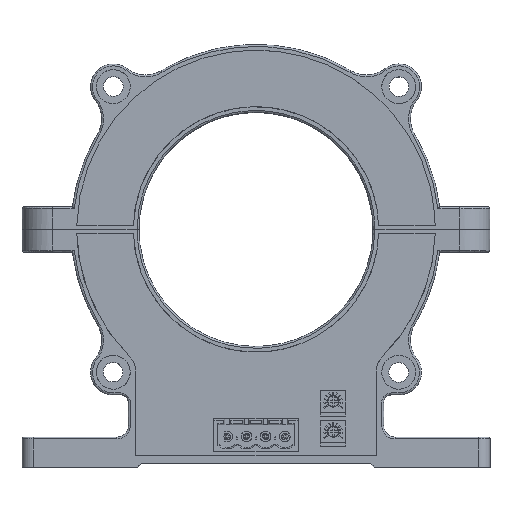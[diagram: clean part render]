
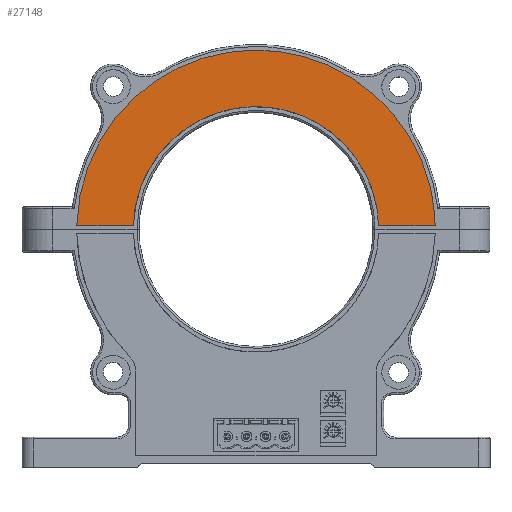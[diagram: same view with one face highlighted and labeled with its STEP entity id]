
A CAD part, top view. The second image highlights one B-rep face of the part: STEP entity #27148.
In plain terms, the highlighted free-form (B-spline) face has degree [1, 1] with [2, 2] control points.
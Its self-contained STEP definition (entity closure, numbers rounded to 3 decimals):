
#21465=CARTESIAN_POINT('',(47.489,1.,20.5));
#21466=VERTEX_POINT('',#21465);
#21472=CARTESIAN_POINT('',(32.485,1.,20.5));
#21473=VERTEX_POINT('',#21472);
#21474=CARTESIAN_POINT('',(47.489,1.,20.5));
#21475=CARTESIAN_POINT('',(32.485,1.,20.5));
#21476=B_SPLINE_CURVE_WITH_KNOTS('',1,(#21474,#21475),.POLYLINE_FORM.,.F.,.U.,(2,2),(0.,1.),.UNSPECIFIED.);
#21477=EDGE_CURVE('',#21466,#21473,#21476,.T.);
#21563=CARTESIAN_POINT('',(-32.485,1.,20.5));
#21564=VERTEX_POINT('',#21563);
#21565=CARTESIAN_POINT('',(32.485,1.,20.5));
#21566=CARTESIAN_POINT('',(31.515,32.5,20.5));
#21567=CARTESIAN_POINT('',(0.,32.5,20.5));
#21568=CARTESIAN_POINT('',(-31.515,32.5,20.5));
#21569=CARTESIAN_POINT('',(-32.485,1.,20.5));
#21570=(BOUNDED_CURVE()B_SPLINE_CURVE(2,(#21565,#21566,#21567,#21568,#21569),.UNSPECIFIED.,.F.,.U.)B_SPLINE_CURVE_WITH_KNOTS((3,2,3),(0.,0.5,1.),.UNSPECIFIED.)CURVE()GEOMETRIC_REPRESENTATION_ITEM()RATIONAL_B_SPLINE_CURVE((1.,0.718,1.,0.718,1.))REPRESENTATION_ITEM(''));
#21571=EDGE_CURVE('',#21473,#21564,#21570,.T.);
#21604=CARTESIAN_POINT('',(-47.489,1.,20.5));
#21605=VERTEX_POINT('',#21604);
#21606=CARTESIAN_POINT('',(-32.485,1.,20.5));
#21607=CARTESIAN_POINT('',(-47.489,1.,20.5));
#21608=B_SPLINE_CURVE_WITH_KNOTS('',1,(#21606,#21607),.POLYLINE_FORM.,.F.,.U.,(2,2),(0.,1.),.UNSPECIFIED.);
#21609=EDGE_CURVE('',#21564,#21605,#21608,.T.);
#22177=CARTESIAN_POINT('',(-47.489,1.,20.5));
#22178=CARTESIAN_POINT('',(-46.51,47.5,20.5));
#22179=CARTESIAN_POINT('',(0.,47.5,20.5));
#22180=CARTESIAN_POINT('',(46.51,47.5,20.5));
#22181=CARTESIAN_POINT('',(47.489,1.,20.5));
#22182=(BOUNDED_CURVE()B_SPLINE_CURVE(2,(#22177,#22178,#22179,#22180,#22181),.UNSPECIFIED.,.F.,.U.)B_SPLINE_CURVE_WITH_KNOTS((3,2,3),(0.,0.5,1.),.UNSPECIFIED.)CURVE()GEOMETRIC_REPRESENTATION_ITEM()RATIONAL_B_SPLINE_CURVE((1.,0.715,1.,0.715,1.))REPRESENTATION_ITEM(''));
#22183=EDGE_CURVE('',#21605,#21466,#22182,.T.);
#27137=CARTESIAN_POINT('',(-105.751,-81.501,20.5));
#27138=CARTESIAN_POINT('',(-105.751,130.001,20.5));
#27139=CARTESIAN_POINT('',(105.751,-81.501,20.5));
#27140=CARTESIAN_POINT('',(105.751,130.001,20.5));
#27141=B_SPLINE_SURFACE_WITH_KNOTS('',1,1,((#27137,#27138),(#27139,#27140)),.PLANE_SURF.,.F.,.F.,.U.,(2,2),(2,2),(0.,1.),(0.,1.),.UNSPECIFIED.);
#27142=ORIENTED_EDGE('',*,*,#21571,.F.);
#27143=ORIENTED_EDGE('',*,*,#21477,.F.);
#27144=ORIENTED_EDGE('',*,*,#22183,.F.);
#27145=ORIENTED_EDGE('',*,*,#21609,.F.);
#27146=EDGE_LOOP('',(#27142,#27143,#27144,#27145));
#27147=FACE_OUTER_BOUND('',#27146,.T.);
#27148=ADVANCED_FACE('',(#27147),#27141,.T.);
